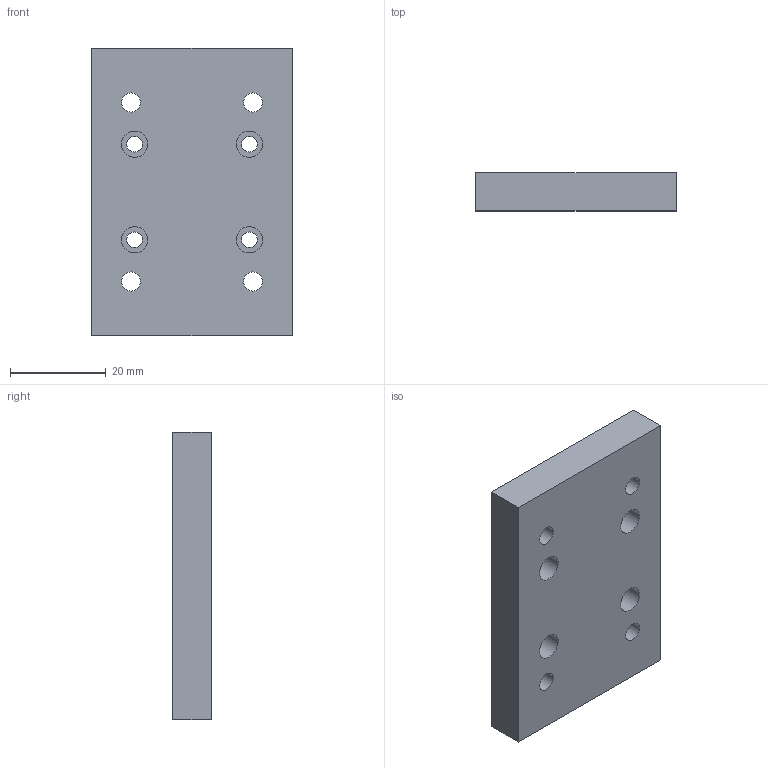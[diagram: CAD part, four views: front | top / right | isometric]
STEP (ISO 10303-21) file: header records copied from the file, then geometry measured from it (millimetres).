
FILE_DESCRIPTION(/* description */ ('STEP AP242 Edition 2','CAx-IF Rec.Pracs.---Representation and Presentation of Product Manufacturing Information (PMI)---4.0---2014-10-13','CAx-IF Rec.Pracs.---3D Tessellated Geometry---0.4---2014-09-14','2;1','CAx-IF Rec.Pracs.---User Defined Attributes---1.5---2016-08-15'),/* implementation_level */ '2;1');
FILE_NAME(/* name */ 'X-Axis to Spindle Bracket',/* time_stamp */ '2025-11-29T19:52:45Z',/* author */ (''),/* organization */ (''),/* preprocessor_version */ 'ST-DEVELOPER v20',/* originating_system */ 'ONSHAPE BY PTC INC, 1.207',/* authorisation */ ' ');
FILE_SCHEMA (('AP242_MANAGED_MODEL_BASED_3D_ENGINEERING_MIM_LF { 1 0 10303 442 3 1 4 }'));
Length unit declared in the file: metre
Products named in the file (1): Part 1
Bounding box: 42 x 8 x 60 mm (x, y, z)
Volume: 18911 mm3; surface area: 7473.2 mm2
Topology: 1 solids, 1 shells, 30 faces, 60 edges, 40 vertices
Faces by surface type: cylinder 16, plane 14
Full cylindrical faces by diameter (mm): 3.3 x4, 4 x4, 5.5 x4, 6.5 x4
Entity records: 770 total; most frequent: DIRECTION 138, CARTESIAN_POINT 115, ORIENTED_EDGE 88, EDGE_LOOP 70, FACE_BOUND 70, AXIS2_PLACEMENT_3D 63, EDGE_CURVE 44, VERTEX_POINT 40
